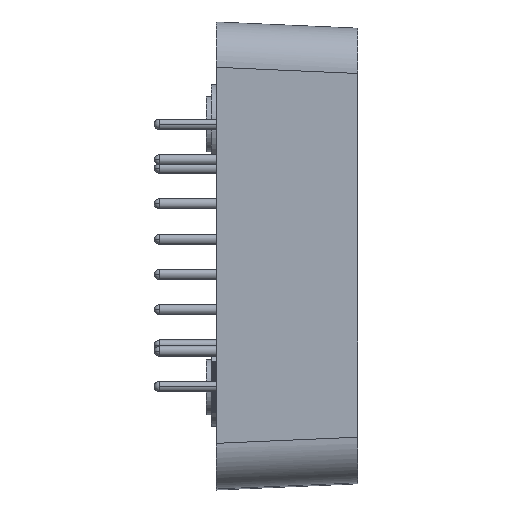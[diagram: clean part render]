
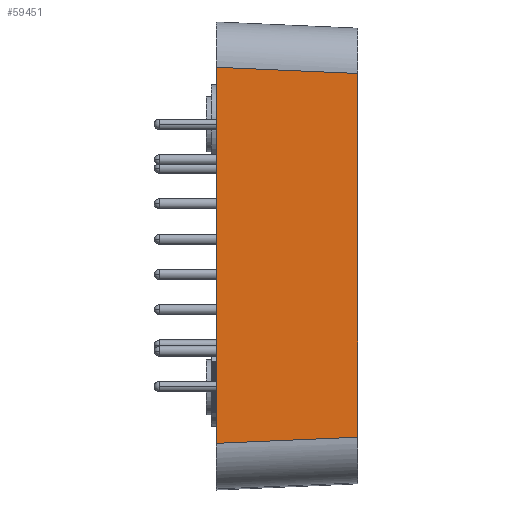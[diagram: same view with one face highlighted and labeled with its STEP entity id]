
A CAD part, top view. The second image highlights one B-rep face of the part: STEP entity #59451.
In plain terms, the highlighted planar face has unit normal (0.044, 0, 0.999).
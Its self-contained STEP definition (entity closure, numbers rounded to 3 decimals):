
#18189=CARTESIAN_POINT('',(-0.3,18.634,38.825));
#18199=DIRECTION('',(0.,1.,0.));
#18200=VECTOR('',#18199,37.269);
#18201=CARTESIAN_POINT('',(-0.3,-18.634,38.825));
#18202=LINE('',#18201,#18200);
#18211=CARTESIAN_POINT('',(-0.3,-18.634,38.825));
#18269=CARTESIAN_POINT('',(13.7,18.023,38.214));
#18329=DIRECTION('',(-0.998,0.044,0.044));
#18330=VECTOR('',#18329,14.027);
#18331=CARTESIAN_POINT('',(13.7,18.023,38.214));
#18332=LINE('',#18331,#18330);
#18333=DIRECTION('',(0.,-1.,0.));
#18334=VECTOR('',#18333,36.046);
#18335=CARTESIAN_POINT('',(13.7,18.023,38.214));
#18336=LINE('',#18335,#18334);
#18337=DIRECTION('',(-0.998,-0.044,0.044));
#18338=VECTOR('',#18337,14.027);
#18339=CARTESIAN_POINT('',(13.7,-18.023,38.214));
#18340=LINE('',#18339,#18338);
#32800=VERTEX_POINT('',#18189);
#32804=VERTEX_POINT('',#18269);
#32806=VERTEX_POINT('',#18211);
#32807=CARTESIAN_POINT('',(13.7,-18.023,38.214));
#32808=VERTEX_POINT('',#32807);
#59440=CARTESIAN_POINT('',(-0.3,-25.243,38.825));
#59441=DIRECTION('',(0.044,0.,0.999));
#59442=DIRECTION('',(0.,1.,0.));
#59443=AXIS2_PLACEMENT_3D('',#59440,#59441,#59442);
#59444=PLANE('',#59443);
#59445=ORIENTED_EDGE('',*,*,#59334,.F.);
#59446=ORIENTED_EDGE('',*,*,#59383,.T.);
#59447=ORIENTED_EDGE('',*,*,#59433,.T.);
#59448=ORIENTED_EDGE('',*,*,#59284,.T.);
#59449=EDGE_LOOP('',(#59445,#59446,#59447,#59448));
#59450=FACE_OUTER_BOUND('',#59449,.F.);
#59451=ADVANCED_FACE('',(#59450),#59444,.T.);
#59284=EDGE_CURVE('',#32806,#32800,#18202,.T.);
#59334=EDGE_CURVE('',#32804,#32800,#18332,.T.);
#59383=EDGE_CURVE('',#32804,#32808,#18336,.T.);
#59433=EDGE_CURVE('',#32808,#32806,#18340,.T.);
